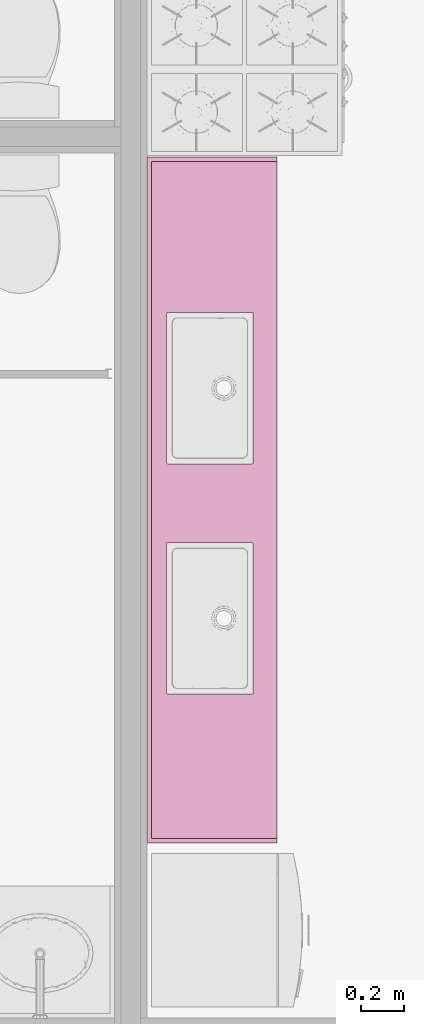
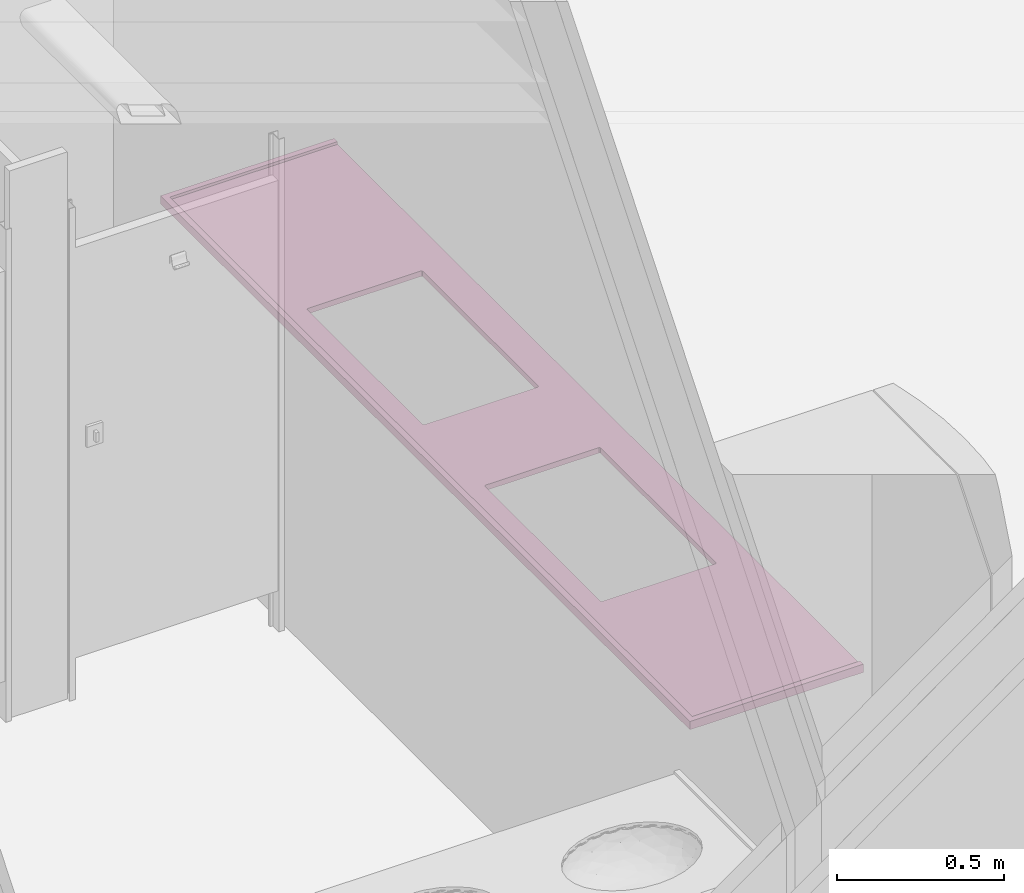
# One storey, part 148 of 155: 1 furnishing.
"""IFC2X3 building model written with IfcOpenShell, lengths in metres."""

from ifc_helpers import new_model, entity, si_unit, converted_unit, derived_unit, direction, frame, frame_2d, origin, place, context, subcontext, project, spatial, polyline, circle_curve, parameter, trimmed, segment, composite_curve, rectangle, outline, extrude, source, transform, mapped, type_object, type_shapes, element, save


model = new_model("IFC2X3")

# Units and contexts
model_context = context("Model", 3, precision=1e-05, world=origin(), true_north=direction((6.12303176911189e-17, 1.0)))
body_context = subcontext(model_context, "Body", "Model", "MODEL_VIEW")
ifc_project = project(units=[si_unit("LENGTHUNIT", "METRE"), si_unit("AREAUNIT", "SQUARE_METRE"), si_unit("VOLUMEUNIT", "CUBIC_METRE"), converted_unit("PLANEANGLEUNIT", "DEGREE", entity("IfcRatioMeasure", 0.0174532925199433), si_unit("PLANEANGLEUNIT", "RADIAN"), dimensions=[0, 0, 0, 0, 0, 0, 0]), si_unit("MASSUNIT", "GRAM", prefix="KILO"), derived_unit("MASSDENSITYUNIT", [(si_unit("MASSUNIT", "GRAM", prefix="KILO"), 1), (si_unit("LENGTHUNIT", "METRE"), -3)]), si_unit("TIMEUNIT", "SECOND"), si_unit("FREQUENCYUNIT", "HERTZ"), si_unit("THERMODYNAMICTEMPERATUREUNIT", "DEGREE_CELSIUS"), derived_unit("THERMALTRANSMITTANCEUNIT", [(si_unit("MASSUNIT", "GRAM", prefix="KILO"), 1), (si_unit("THERMODYNAMICTEMPERATUREUNIT", "KELVIN"), -1), (si_unit("TIMEUNIT", "SECOND"), -3)]), derived_unit("VOLUMETRICFLOWRATEUNIT", [(si_unit("LENGTHUNIT", "METRE"), 3), (si_unit("TIMEUNIT", "SECOND"), -1)]), si_unit("ELECTRICCURRENTUNIT", "AMPERE"), si_unit("ELECTRICVOLTAGEUNIT", "VOLT"), si_unit("POWERUNIT", "WATT"), si_unit("FORCEUNIT", "NEWTON", prefix="KILO"), si_unit("ILLUMINANCEUNIT", "LUX"), si_unit("LUMINOUSFLUXUNIT", "LUMEN"), si_unit("LUMINOUSINTENSITYUNIT", "CANDELA"), derived_unit("USERDEFINED", [(si_unit("MASSUNIT", "GRAM", prefix="KILO"), -1), (si_unit("LENGTHUNIT", "METRE"), -2), (si_unit("TIMEUNIT", "SECOND"), 3), (si_unit("LUMINOUSFLUXUNIT", "LUMEN"), 1)]), derived_unit("LINEARVELOCITYUNIT", [(si_unit("LENGTHUNIT", "METRE"), 1), (si_unit("TIMEUNIT", "SECOND"), -1)]), si_unit("PRESSUREUNIT", "PASCAL"), derived_unit("USERDEFINED", [(si_unit("LENGTHUNIT", "METRE"), -2), (si_unit("MASSUNIT", "GRAM", prefix="KILO"), 1), (si_unit("TIMEUNIT", "SECOND"), -2)])], contexts=[model_context])

# Site, building, storey, space
site_placement = place(None, frame((26.9889013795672, -17.5624287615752, 0.0)))
site = spatial("IfcSite", under=ifc_project, at=site_placement, Name="Default", CompositionType="ELEMENT")
building_placement = place(site_placement, origin())
building = spatial("IfcBuilding", under=site, at=building_placement, Name="C. C. L. Monsenhor Antônio Sampaio", CompositionType="ELEMENT")
storey_placement = place(building_placement, frame((0.0, 0.0, 1.19999999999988)))
storey = spatial("IfcBuildingStorey", under=building, at=storey_placement, Name="Nível 1.2", CompositionType="ELEMENT", Elevation=1.19999999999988)
space_placement = place(storey_placement, origin())
space = spatial("IfcSpace", under=storey, at=space_placement, Name="90", CompositionType="ELEMENT", InteriorOrExteriorSpace="INTERNAL")

# Furnishing
furniture_type = type_object("IfcFurnitureType", Name="Bancada_L_60x265")
shared_shape = source(origin(), body_context, "Body", "SweptSolid", [
    extrude(outline(polyline([(-1.585, -0.3), (1.58499999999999, -0.3), (1.58499999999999, 0.3), (-1.58499999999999, 0.3), (-1.585, -0.3)]), holes=[composite_curve([segment(polyline([(0.172499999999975, 0.209918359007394), (0.862499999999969, 0.209918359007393)]), True, "CONTINUOUS"), segment(trimmed(circle_curve(frame_2d((0.862499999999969, 0.204918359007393), x_axis=(1.0, 0.0)), 0.005), [parameter(0.0)], [parameter(89.9999999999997)], True, "PARAMETER"), False, "CONTINUOUS"), segment(polyline([(0.867499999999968, 0.204918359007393), (0.867499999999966, -0.18508164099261)]), True, "CONTINUOUS"), segment(trimmed(circle_curve(frame_2d((0.862499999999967, -0.18508164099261), x_axis=(1.0, 0.0)), 0.005), [parameter(270.0)], [parameter(1.57755512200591e-12)], True, "PARAMETER"), False, "CONTINUOUS"), segment(polyline([(0.862499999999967, -0.19008164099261), (0.172499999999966, -0.190081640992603)]), True, "CONTINUOUS"), segment(trimmed(circle_curve(frame_2d((0.172499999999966, -0.185081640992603), x_axis=(1.0, 0.0)), 0.005), [parameter(180.0)], [parameter(270.0)], True, "PARAMETER"), False, "CONTINUOUS"), segment(polyline([(0.167499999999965, -0.185081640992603), (0.167499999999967, 0.204918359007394)]), True, "CONTINUOUS"), segment(trimmed(circle_curve(frame_2d((0.172499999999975, 0.204918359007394), x_axis=(1.0, 0.0)), 0.005), [parameter(89.9999999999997)], [parameter(180.0)], True, "PARAMETER"), False, "CONTINUOUS")], self_intersect=False), composite_curve([segment(polyline([(-0.197460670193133, 0.204918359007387), (-0.197460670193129, -0.18508164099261)]), True, "CONTINUOUS"), segment(trimmed(circle_curve(frame_2d((-0.202460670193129, -0.18508164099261), x_axis=(-1.0, 0.0)), 0.005), [parameter(89.9999999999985)], [parameter(180.0)], True, "PARAMETER"), False, "CONTINUOUS"), segment(polyline([(-0.202460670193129, -0.19008164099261), (-0.892460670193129, -0.190081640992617)]), True, "CONTINUOUS"), segment(trimmed(circle_curve(frame_2d((-0.892460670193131, -0.185081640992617), x_axis=(-1.0, 0.0)), 0.005), [parameter(359.999999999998)], [parameter(90.0000000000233)], True, "PARAMETER"), False, "CONTINUOUS"), segment(polyline([(-0.897460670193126, -0.185081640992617), (-0.897460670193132, 0.204918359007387)]), True, "CONTINUOUS"), segment(trimmed(circle_curve(frame_2d((-0.892460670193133, 0.204918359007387), x_axis=(-1.0, 0.0)), 0.005), [parameter(269.999999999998)], [parameter(360.0)], True, "PARAMETER"), False, "CONTINUOUS"), segment(polyline([(-0.892460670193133, 0.209918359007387), (-0.20246067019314, 0.209918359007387)]), True, "CONTINUOUS"), segment(trimmed(circle_curve(frame_2d((-0.202460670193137, 0.204918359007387), x_axis=(-1.0, 0.0)), 0.005), [parameter(180.0)], [parameter(270.000000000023)], True, "PARAMETER"), False, "CONTINUOUS")], self_intersect=False)]), frame((0.0301568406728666, -14.358066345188, 2.07999999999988), z_axis=(0.0, 0.0, 1.0), x_axis=(0.0, 1.0, 0.0)), (0.0, 0.0, 1.0), 0.0200000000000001),
    extrude(rectangle(XDim=3.16999999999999, YDim=0.0199999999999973, at=frame_2d((9.99200722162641e-16, 0.0), x_axis=(1.0, 0.0))), frame((-0.259843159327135, -14.358066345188, 2.09999999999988), z_axis=(0.0, 0.0, 1.0), x_axis=(0.0, 1.0, 0.0)), (0.0, 0.0, 1.0), 0.00999999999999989),
    extrude(rectangle(XDim=0.580000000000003, YDim=0.0199999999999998, at=frame_2d((0.0, -1.08246744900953e-15), x_axis=(1.0, 0.0))), frame((0.0401568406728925, -15.933066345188, 2.09999999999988), z_axis=(0.0, 0.0, 1.0), x_axis=(-1.0, 0.0, 0.0)), (0.0, 0.0, 1.0), 0.00999999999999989),
    extrude(rectangle(XDim=0.579999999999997, YDim=0.0200000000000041, at=frame_2d((0.0, -1.08333481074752e-15), x_axis=(1.0, 0.0))), frame((0.040156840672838, -12.783066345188, 2.09999999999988), z_axis=(0.0, 0.0, 1.0), x_axis=(-1.0, 0.0, 0.0)), (0.0, 0.0, 1.0), 0.00999999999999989),
])
type_shapes(furniture_type, [shared_shape])
furnishing_placement = place(space_placement, frame((0.0, 0.0, -1.19999999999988)))
element("IfcFurnishingElement", 1, at=furnishing_placement, inside=space, type_object=furniture_type, Name="Bancada1:Bancada_L_60x265", ObjectType="Bancada_L_60x265", context=body_context, shape_type="MappedRepresentation", body=[
    mapped(shared_shape, transform((0.0, 0.0, 0.0), scale=1.0)),
])

save(model, "model.ifc")
